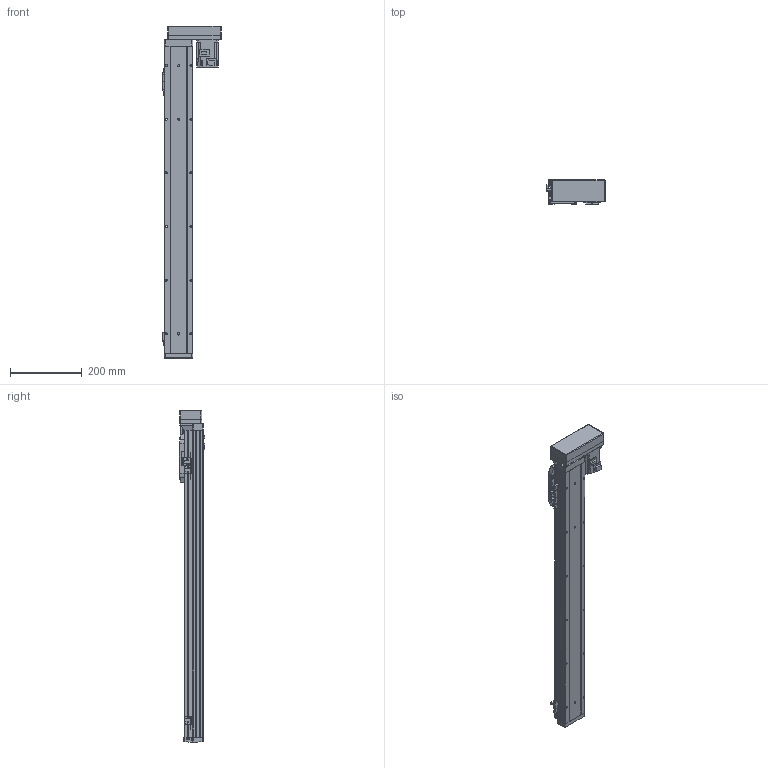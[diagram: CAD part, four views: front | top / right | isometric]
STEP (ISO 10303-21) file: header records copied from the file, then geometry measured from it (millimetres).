
FILE_DESCRIPTION (( 'STEP AP214' ), '1' );
FILE_NAME ('GSH8-700-BL-M20-1.step', '2025-01-07T06:06:25', ( '' ), ( '' ), 'SwSTEP 2.0', 'SolidWorks 2012', '' );
FILE_SCHEMA (( 'AUTOMOTIVE_DESIGN' ));
Length unit declared in the file: millimetre
Products named in the file (5): GSH8-700-BL-M20-1; HG-KR23_200W_Motor; GSH8-BL-008; GSH8-BL-011-700-M20; GSH8-GY-004
Assembly tree (4 placements, depth 2):
  GSH8-700-BL-M20-1
    GSH8-BL-011-700-M20
    GSH8-GY-004
    GSH8-BL-008
    HG-KR23_200W_Motor
Bounding box: 163 x 71.3 x 928.2 mm (x, y, z)
Volume: 2230764.6 mm3; surface area: 562961.2 mm2
Topology: 4 solids, 8 shells, 1133 faces, 2972 edges, 1912 vertices
Faces by surface type: plane 642, cylinder 395, torus 42, cone 26, bspline 24, sphere 4
Entity records: 44302 total; most frequent: CARTESIAN_POINT 9966, DIRECTION 6032, ORIENTED_EDGE 5928, EDGE_CURVE 2964, AXIS2_PLACEMENT_3D 2030, LINE 1972, VECTOR 1972, VERTEX_POINT 1908
